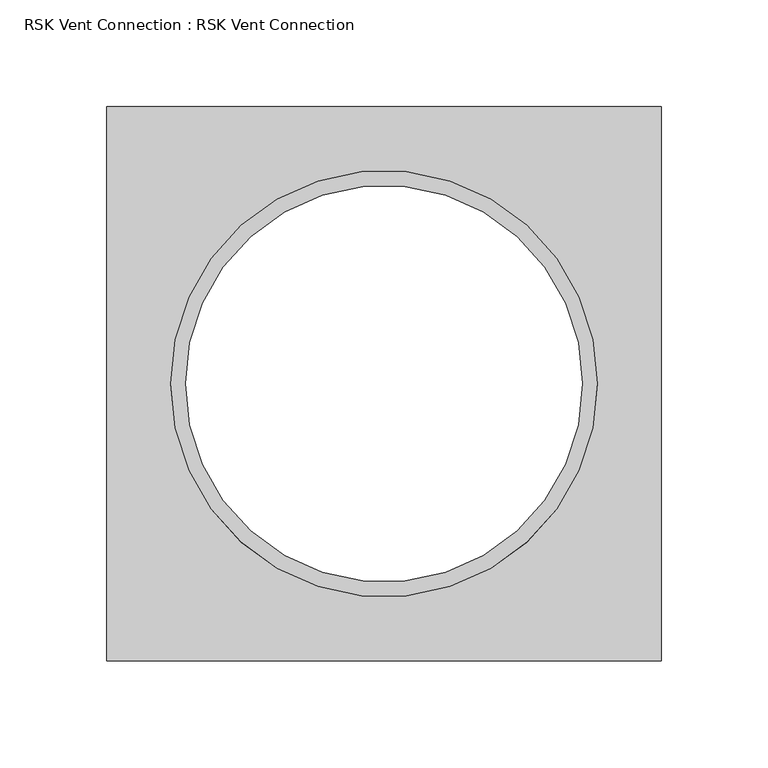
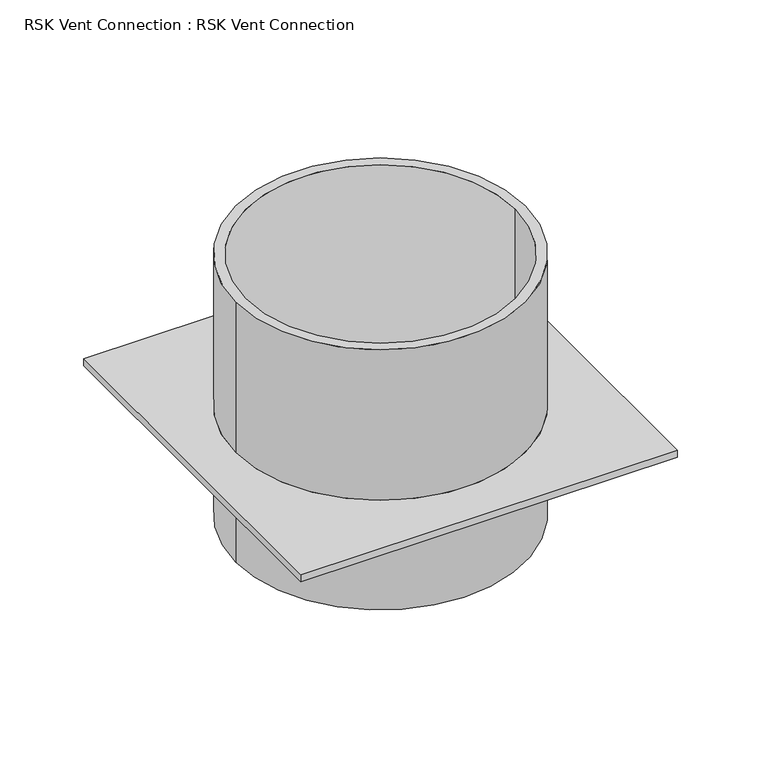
"""IFC4 building model written with IfcOpenShell, lengths in millimetres: proxy geometry, RSK Vent Connection : RSK Vent Connection."""

from ifc_helpers import new_model, si_unit, frame, origin, place, context, project, spatial, polyline, circle_curve, source, transform, mapped, element, save
from ifc_brep_helpers import plane_surface, cylinder_surface, revolved_surface, advanced_brep


def rsk_vent_connection_rsk_vent_connection_5ee87a40(model_context):
    return source(origin(), model_context, "Body", "AdvancedBrep", [
        advanced_brep(
        [(130.0, -130.0, 5.0), (130.0, 130.0, 5.0), (-130.0, 130.0, 5.0), (-130.0, -130.0, 5.0), (-100.0, 0.0, 5.0), (100.0, 0.0, 5.0), (130.0, -130.0, 0.0), (-130.0, -130.0, 0.0), (-130.0, 130.0, 0.0), (130.0, 130.0, 0.0), (100.0, 0.0, 0.0), (-100.0, 0.0, 0.0), (100.0, 0.0, 115.0), (-100.0, 0.0, 115.0), (93.0, 0.0, 115.0), (-93.0, 0.0, 115.0), (100.0, 0.0, -75.0), (-100.0, 0.0, -75.0), (93.0, 0.0, -75.0), (-93.0, 0.0, -75.0)],
        [
            (0, 1),
            (1, 2),
            (2, 3),
            (3, 0),
            (4, 5, circle_curve(frame((0.0, 0.0, 5.0), z_axis=(0.0, 0.0, -1.0), x_axis=(-1.0, 0.0, 0.0)), 100.0)),
            (5, 4, circle_curve(frame((0.0, 0.0, 5.0), z_axis=(0.0, 0.0, -1.0), x_axis=(-1.0, 0.0, 0.0)), 100.0)),
            (6, 7),
            (7, 8),
            (8, 9),
            (9, 6),
            (10, 11, circle_curve(frame((0.0, 0.0, 0.0), z_axis=(0.0, 0.0, 1.0), x_axis=(-1.0, 0.0, 0.0)), 100.0)),
            (11, 10, circle_curve(frame((0.0, 0.0, 0.0), z_axis=(0.0, 0.0, 1.0), x_axis=(-1.0, 0.0, 0.0)), 100.0)),
            (0, 6),
            (9, 1),
            (8, 2),
            (7, 3),
            (12, 13, circle_curve(frame((0.0, 0.0, 115.0), z_axis=(0.0, 0.0, 1.0), x_axis=(-1.0, 0.0, 0.0)), 100.0)),
            (13, 12, circle_curve(frame((0.0, 0.0, 115.0), z_axis=(0.0, 0.0, 1.0), x_axis=(-1.0, 0.0, 0.0)), 100.0)),
            (14, 15, circle_curve(frame((0.0, 0.0, 115.0), z_axis=(0.0, 0.0, -1.0), x_axis=(-1.0, 0.0, 0.0)), 93.0)),
            (15, 14, circle_curve(frame((0.0, 0.0, 115.0), z_axis=(0.0, 0.0, -1.0), x_axis=(-1.0, 0.0, 0.0)), 93.0)),
            (16, 17, circle_curve(frame((0.0, 0.0, -75.0), z_axis=(0.0, 0.0, -1.0), x_axis=(-1.0, 0.0, 0.0)), 100.0)),
            (17, 16, circle_curve(frame((0.0, 0.0, -75.0), z_axis=(0.0, 0.0, -1.0), x_axis=(-1.0, 0.0, 0.0)), 100.0)),
            (18, 19, circle_curve(frame((0.0, 0.0, -75.0), z_axis=(0.0, 0.0, 1.0), x_axis=(-1.0, 0.0, 0.0)), 93.0)),
            (19, 18, circle_curve(frame((0.0, 0.0, -75.0), z_axis=(0.0, 0.0, 1.0), x_axis=(-1.0, 0.0, 0.0)), 93.0)),
            (12, 5),
            (4, 13),
            (17, 11),
            (10, 16),
            (14, 18),
            (19, 15),
        ],
        [
            plane_surface(frame((130.0, -130.0, 5.0), z_axis=(0.0, 0.0, 1.0), x_axis=(0.0, 1.0, 0.0))),
            plane_surface(frame((130.0, -130.0, 0.0), z_axis=(0.0, 0.0, -1.0), x_axis=(0.0, -1.0, 0.0))),
            plane_surface(frame((130.0, -130.0, 5.0), z_axis=(1.0, 0.0, 0.0), x_axis=(0.0, 0.0, -1.0))),
            plane_surface(frame((130.0, 130.0, 5.0), z_axis=(0.0, 1.0, 0.0), x_axis=(0.0, 0.0, -1.0))),
            plane_surface(frame((-130.0, 130.0, 5.0), z_axis=(-1.0, 0.0, 0.0), x_axis=(0.0, 0.0, -1.0))),
            plane_surface(frame((-130.0, -130.0, 5.0), z_axis=(0.0, -1.0, 0.0), x_axis=(0.0, 0.0, -1.0))),
            plane_surface(frame((-100.0, 0.0, 115.0), z_axis=(0.0, 0.0, 1.0), x_axis=(0.0, -1.0, 0.0))),
            plane_surface(frame((-100.0, 0.0, -75.0), z_axis=(0.0, 0.0, -1.0), x_axis=(0.0, 1.0, 0.0))),
            cylinder_surface(frame((0.0, 0.0, -75.0), z_axis=(0.0, 0.0, 1.0), x_axis=(-1.0, 0.0, 0.0)), 100.0),
            revolved_surface(polyline([(-93.0, 0.0, -75.0), (-93.0, 0.0, 115.0)]), (0.0, 0.0, -75.0), (0.0, 0.0, -1.0)),
        ],
        [
            (0, [[1, 2, 3, 4], [5, 6]]),
            (1, [[7, 8, 9, 10], [11, 12]]),
            (2, [[-1, 13, -10, 14]]),
            (3, [[-2, -14, -9, 15]]),
            (4, [[-3, -15, -8, 16]]),
            (5, [[-4, -16, -7, -13]]),
            (6, [[17, 18], [19, 20]]),
            (7, [[21, 22], [23, 24]]),
            (8, [[-17, 25, -5, 26]]),
            (8, [[-22, 27, -11, 28]]),
            (8, [[-18, -26, -6, -25]]),
            (8, [[-21, -28, -12, -27]]),
            (9, [[-19, 29, -24, 30]]),
            (9, [[-20, -30, -23, -29]]),
        ],
    ),
    ])


if __name__ == "__main__":
    model = new_model("IFC4")
    model_context = context("Model", 3, world=origin())
    ifc_project = project(units=[si_unit("LENGTHUNIT", "METRE", prefix="MILLI")], contexts=[model_context])
    site = spatial("IfcSite", under=ifc_project)
    building = spatial("IfcBuilding", under=site)
    placement = place(None, origin())
    rsk_vent_connection_rsk_vent_connection_shape = rsk_vent_connection_rsk_vent_connection_5ee87a40(model_context)
    element("IfcBuildingElementProxy", 1, Name="RSK Vent Connection : RSK Vent Connection", ObjectType="RSK Vent Connection : RSK Vent Connection", at=placement, inside=building, context=model_context, shape_type="MappedRepresentation", body=[
        mapped(rsk_vent_connection_rsk_vent_connection_shape, transform((0.0, 0.0, 0.0), x_axis=(1.0, 0.0, 0.0), y_axis=(0.0, 1.0, 0.0), z_axis=(0.0, 0.0, 1.0))),
    ])
    save(model, "model.ifc")
